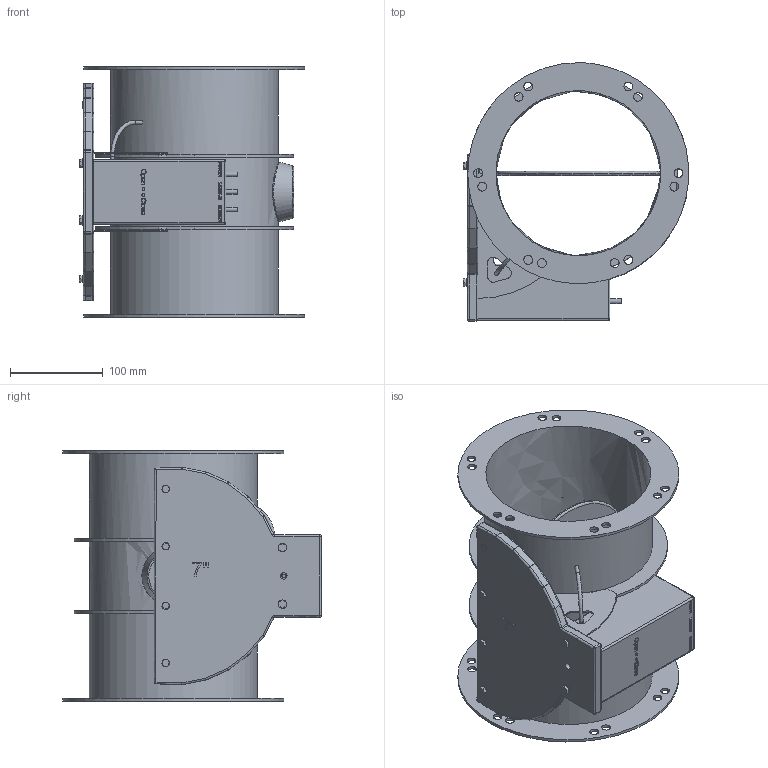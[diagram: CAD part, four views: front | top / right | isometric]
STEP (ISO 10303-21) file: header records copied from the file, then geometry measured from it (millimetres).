
FILE_DESCRIPTION( ('This file contains a STEP AP42 implementation' ,'as created by ZW3D STEP Interface translator.') ,'2;1' );
FILE_NAME( '3D Model-07_2M0 Butterfly Body with drive.stp' ,'201125. 91032', (''), ('ZWCAD Software Co.'), 'Version 1.0', 'ZW3D to STEP translator', '' );
FILE_SCHEMA(('AUTOMOTIVE_DESIGN'));
Length unit declared in the file: millimetre
Products named in the file (1): 0
Bounding box: 242.49 x 278.39 x 270 mm (x, y, z)
Volume: 1586464 mm3; surface area: 635149.4 mm2
Topology: 7 solids, 9 shells, 767 faces, 1948 edges, 1286 vertices
Faces by surface type: bspline 767
Entity records: 32000 total; most frequent: CARTESIAN_POINT 19632, ORIENTED_EDGE 3742, EDGE_CURVE 1871, B_SPLINE_CURVE_WITH_KNOTS 1541, VERTEX_POINT 1197, EDGE_LOOP 904, FACE_OUTER_BOUND 767, ADVANCED_FACE 767
